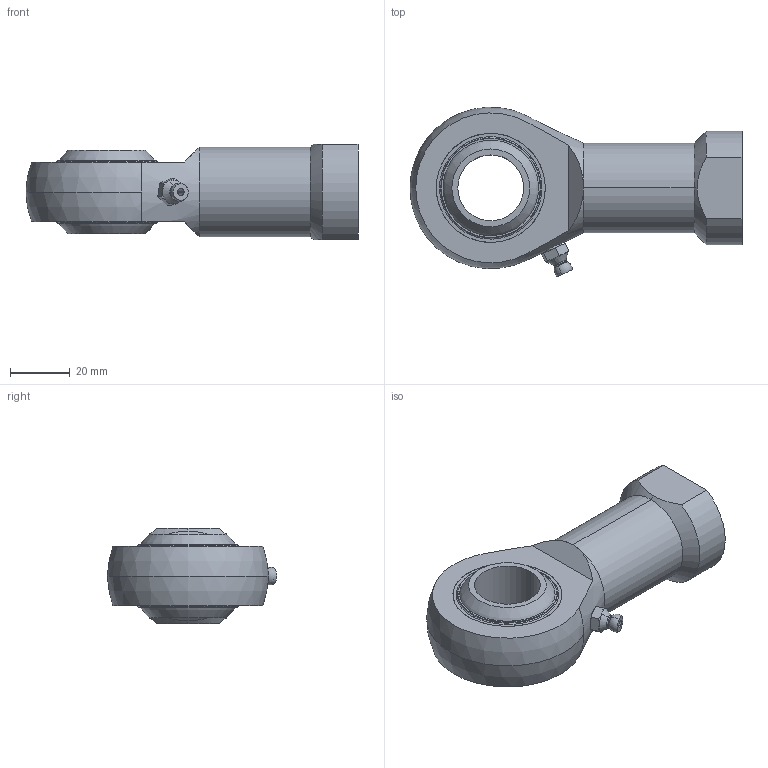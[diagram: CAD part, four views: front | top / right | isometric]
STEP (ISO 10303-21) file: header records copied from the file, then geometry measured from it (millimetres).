
FILE_DESCRIPTION (( 'STEP AP203' ), '1' );
FILE_NAME ('65760.W0122.step', '2014-02-11T16:43:13', ( 'User' ), ( '' ), 'SwSTEP 2.0', 'SolidWorks 2009', '' );
FILE_SCHEMA (( 'CONFIG_CONTROL_DESIGN' ));
Length unit declared in the file: millimetre
Products named in the file (5): 65760.W0122; Part1_65760.W0122; Part2_65760.W0122; Part3_M6; Part4_65760.W0122
Assembly tree (5 placements, depth 2):
  65760.W0122
    Part3_M6
    Part1_65760.W0122
    Part2_65760.W0122
    Part4_65760.W0122  x2
Bounding box: 111 x 56.63 x 32 mm (x, y, z)
Volume: 66809.4 mm3; surface area: 29085.9 mm2
Topology: 46 solids, 46 shells, 183 faces, 524 edges, 353 vertices
Faces by surface type: sphere 98, plane 27, torus 22, cylinder 20, cone 16
Entity records: 4823 total; most frequent: CARTESIAN_POINT 917, DIRECTION 814, ORIENTED_EDGE 558, AXIS2_PLACEMENT_3D 385, EDGE_CURVE 279, VERTEX_POINT 208, CIRCLE 207, EDGE_LOOP 189
